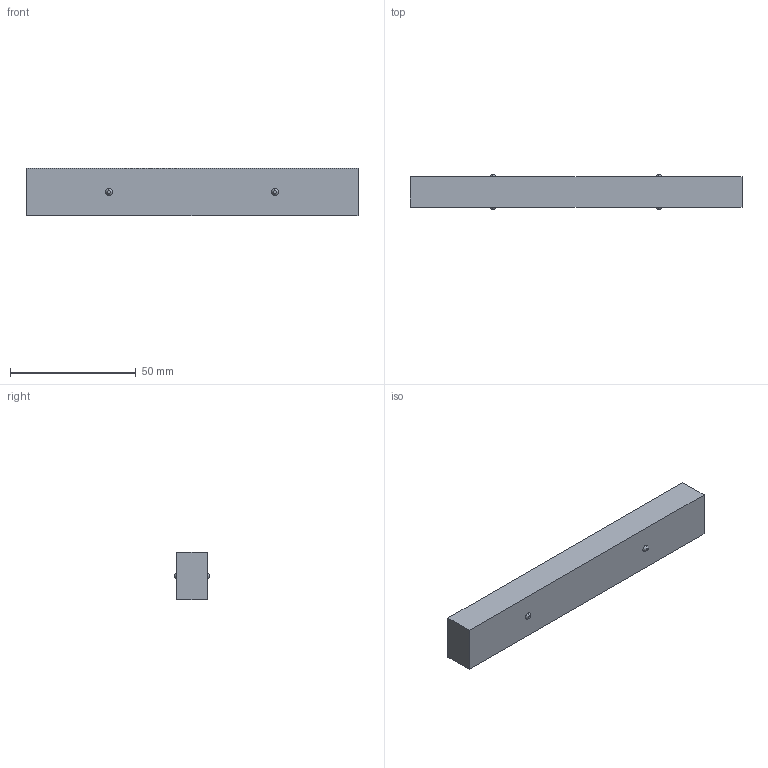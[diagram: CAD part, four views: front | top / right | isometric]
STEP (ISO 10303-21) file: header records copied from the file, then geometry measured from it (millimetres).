
FILE_DESCRIPTION (( 'STEP AP214' ), '1' );
FILE_NAME ('Handle_Shim_Pair.STEP', '2015-02-28T17:30:28', ( '' ), ( '' ), '', '', '' );
FILE_SCHEMA (( '' ));
Length unit declared in the file: millimetre
Products named in the file (1): Handle_Shim_Pair
Bounding box: 132 x 14 x 19.03 mm (x, y, z)
Volume: 21241.5 mm3; surface area: 14307.1 mm2
Topology: 1 solids, 1 shells, 24 faces, 50 edges, 32 vertices
Faces by surface type: plane 14, cone 8, bspline 2
Entity records: 667 total; most frequent: CARTESIAN_POINT 133, DIRECTION 108, ORIENTED_EDGE 100, EDGE_CURVE 50, AXIS2_PLACEMENT_3D 39, VERTEX_POINT 32, LINE 30, VECTOR 30
